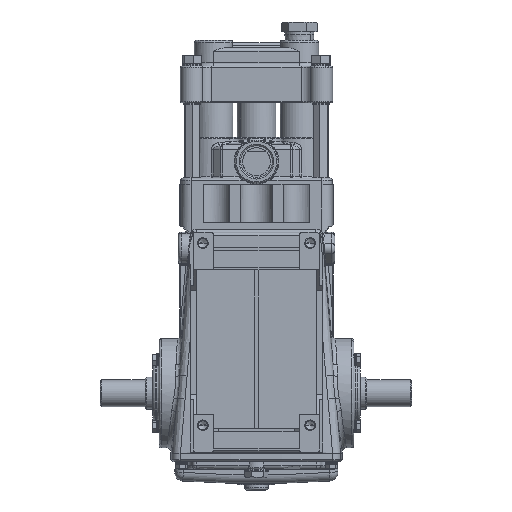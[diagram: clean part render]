
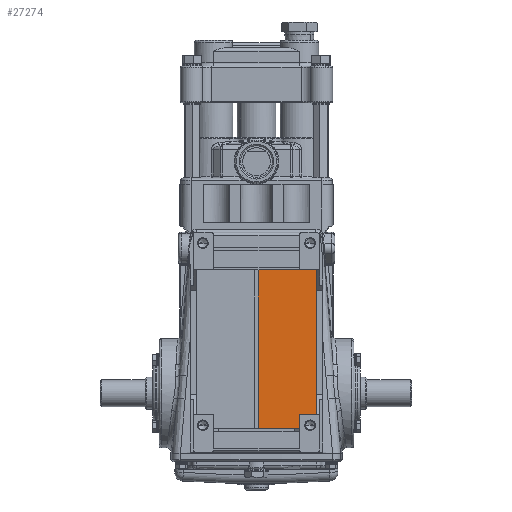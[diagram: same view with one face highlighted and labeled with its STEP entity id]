
A CAD part, front view. The second image highlights one B-rep face of the part: STEP entity #27274.
In plain terms, the highlighted planar face has unit normal (0, -1, 0).
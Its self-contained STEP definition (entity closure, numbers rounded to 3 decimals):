
#27274 = ADVANCED_FACE ( 'NONE', ( #109435 ), #122930, .T. ) ;
#41498 = EDGE_CURVE ( 'NONE', #172108, #172109, #80672, .T. ) ;
#41745 = EDGE_CURVE ( 'NONE', #172108, #172236, #84520, .T. ) ;
#41746 = EDGE_CURVE ( 'NONE', #172236, #172237, #84523, .T. ) ;
#41747 = EDGE_CURVE ( 'NONE', #172237, #172238, #84526, .T. ) ;
#41748 = EDGE_CURVE ( 'NONE', #172238, #172239, #84529, .T. ) ;
#41749 = EDGE_CURVE ( 'NONE', #172239, #172109, #84532, .T. ) ;
#72296 = VECTOR ( 'NONE', #80676, 1000. ) ;
#72644 = VECTOR ( 'NONE', #84522, 1000. ) ;
#72646 = VECTOR ( 'NONE', #84525, 1000. ) ;
#72649 = VECTOR ( 'NONE', #84528, 1000. ) ;
#72652 = VECTOR ( 'NONE', #84531, 1000. ) ;
#72656 = VECTOR ( 'NONE', #84534, 1000. ) ;
#80672 = LINE ( 'NONE', #80674, #72296 ) ;
#80674 = CARTESIAN_POINT ( 'NONE',  ( 1.5, -57., -227.5 ) ) ;
#80676 = DIRECTION ( 'NONE',  ( 0., 0., 1. ) ) ;
#84520 = LINE ( 'NONE', #84521, #72644 ) ;
#84521 = CARTESIAN_POINT ( 'NONE',  ( 40., -57., -227.5 ) ) ;
#84522 = DIRECTION ( 'NONE',  ( 1., 0., 0. ) ) ;
#84523 = LINE ( 'NONE', #84524, #72646 ) ;
#84524 = CARTESIAN_POINT ( 'NONE',  ( 40., -57., -227.5 ) ) ;
#84525 = DIRECTION ( 'NONE',  ( 0., 0., 1. ) ) ;
#84526 = LINE ( 'NONE', #84527, #72649 ) ;
#84527 = CARTESIAN_POINT ( 'NONE',  ( 56., -57., -214.5 ) ) ;
#84528 = DIRECTION ( 'NONE',  ( 1., 0., 0. ) ) ;
#84529 = LINE ( 'NONE', #84530, #72652 ) ;
#84530 = CARTESIAN_POINT ( 'NONE',  ( 56., -57., -214.5 ) ) ;
#84531 = DIRECTION ( 'NONE',  ( 0., 0., 1. ) ) ;
#84532 = LINE ( 'NONE', #84533, #72656 ) ;
#84533 = CARTESIAN_POINT ( 'NONE',  ( -56., -57., -79.5 ) ) ;
#84534 = DIRECTION ( 'NONE',  ( -1., 0., 0. ) ) ;
#109435 = FACE_OUTER_BOUND ( 'NONE', #176879, .T. ) ;
#109439 = AXIS2_PLACEMENT_3D ( 'NONE', #122931, #122932, #122933 ) ;
#111583 = ORIENTED_EDGE ( 'NONE', *, *, #41746, .T. ) ;
#111585 = ORIENTED_EDGE ( 'NONE', *, *, #41498, .F. ) ;
#111586 = ORIENTED_EDGE ( 'NONE', *, *, #41745, .T. ) ;
#111589 = ORIENTED_EDGE ( 'NONE', *, *, #41747, .T. ) ;
#111591 = ORIENTED_EDGE ( 'NONE', *, *, #41748, .T. ) ;
#111593 = ORIENTED_EDGE ( 'NONE', *, *, #41749, .T. ) ;
#122930 = PLANE ( 'NONE',  #109439 ) ;
#122931 = CARTESIAN_POINT ( 'NONE',  ( -56., -57., -227.5 ) ) ;
#122932 = DIRECTION ( 'NONE',  ( 0., -1., 0. ) ) ;
#122933 = DIRECTION ( 'NONE',  ( -1., 0., 0. ) ) ;
#138596 = CARTESIAN_POINT ( 'NONE',  ( 1.5, -57., -227.5 ) ) ;
#138597 = CARTESIAN_POINT ( 'NONE',  ( 1.5, -57., -79.5 ) ) ;
#138724 = CARTESIAN_POINT ( 'NONE',  ( 40., -57., -227.5 ) ) ;
#138725 = CARTESIAN_POINT ( 'NONE',  ( 40., -57., -214.5 ) ) ;
#138726 = CARTESIAN_POINT ( 'NONE',  ( 56., -57., -214.5 ) ) ;
#138727 = CARTESIAN_POINT ( 'NONE',  ( 56., -57., -79.5 ) ) ;
#172108 = VERTEX_POINT ( 'NONE', #138596 ) ;
#172109 = VERTEX_POINT ( 'NONE', #138597 ) ;
#172236 = VERTEX_POINT ( 'NONE', #138724 ) ;
#172237 = VERTEX_POINT ( 'NONE', #138725 ) ;
#172238 = VERTEX_POINT ( 'NONE', #138726 ) ;
#172239 = VERTEX_POINT ( 'NONE', #138727 ) ;
#176879 = EDGE_LOOP ( 'NONE', ( #111585, #111586, #111583, #111589, #111591, #111593 ) ) ;
